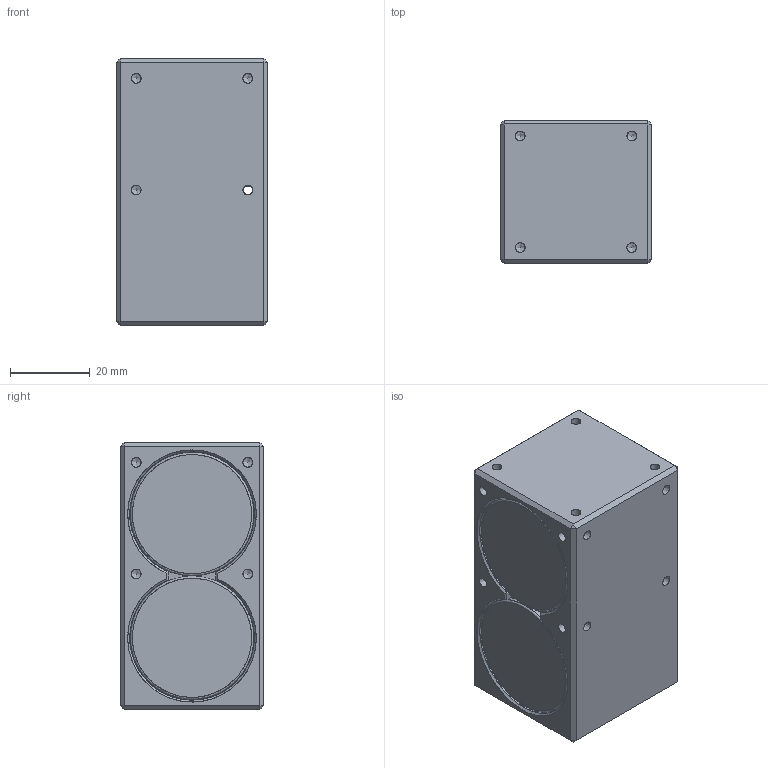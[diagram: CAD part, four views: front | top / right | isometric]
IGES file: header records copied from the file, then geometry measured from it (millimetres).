
Global section: file name: Y:\_LCPD Drawings\13.1 Lightweight Models\8003\DOUBLE RETROREFLECTOR\LA_8003_0181_A.igs; native system: NX V6.0; preprocessor: SIEMENS UGS NX 6.0; date: 20100720.151017; units: millimetre
Bounding box: 38 x 36 x 67 mm (x, y, z)
Surface area: 14526.7 mm2 (no closed solid volume)
Topology: 0 solids, 0 shells, 558 faces, 3506 edges, 3430 vertices
Faces by surface type: bspline 558
